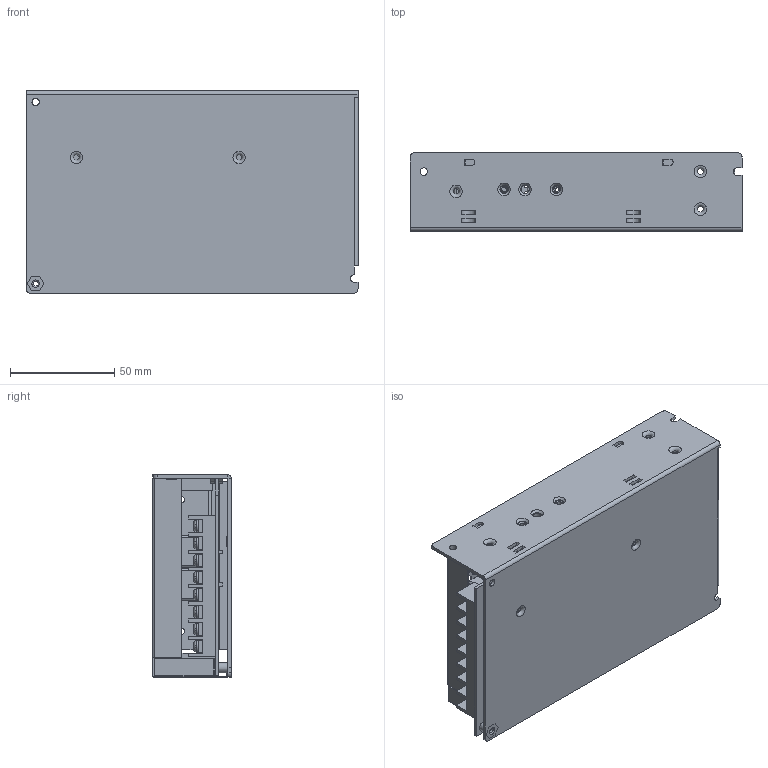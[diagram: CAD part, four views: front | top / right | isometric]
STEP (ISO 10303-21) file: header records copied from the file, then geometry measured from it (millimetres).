
FILE_DESCRIPTION((''),'2;1');
FILE_NAME('C:\Users\shirley\Desktop\AD-55.stp','2019-10-04T14:26:46',('shirley'),(''),'Autodesk Inventor 2010','Autodesk Inventor 2010','');
FILE_SCHEMA(('AUTOMOTIVE_DESIGN { 1 0 10303 214 1 1 1 1 }'));
Length unit declared in the file: millimetre
Products named in the file (10): AD-55; 901-D; NUT; 901-T; pcb; TN1; HS1; HS2_CPY; HS4
Assembly tree (9 placements, depth 3):
  AD-55
    901-D
      901-D
      NUT
    901-T
    pcb
    TN1
    HS1
    HS2_CPY
    HS4
Bounding box: 159.1 x 37.6 x 97.11 mm (x, y, z)
Volume: 86103.8 mm3; surface area: 124151.2 mm2
Topology: 8 solids, 8 shells, 1153 faces, 3373 edges, 2270 vertices
Faces by surface type: cylinder 625, plane 458, bspline 46, torus 16, cone 8
Full cylindrical faces by diameter (mm): 2.5 x5, 2.6 x2, 2.65 x2, 2.8 x2, 3.2 x2, 3.5 x3, 3.6 x2, 4 x5, 4.5 x480, 5 x1, 5.6 x8
Entity records: 40143 total; most frequent: CARTESIAN_POINT 8481, DIRECTION 6241, ORIENTED_EDGE 5496, EDGE_CURVE 2748, EDGE_LOOP 2738, AXIS2_PLACEMENT_3D 2441, VERTEX_POINT 2120, FACE_BOUND 1585
